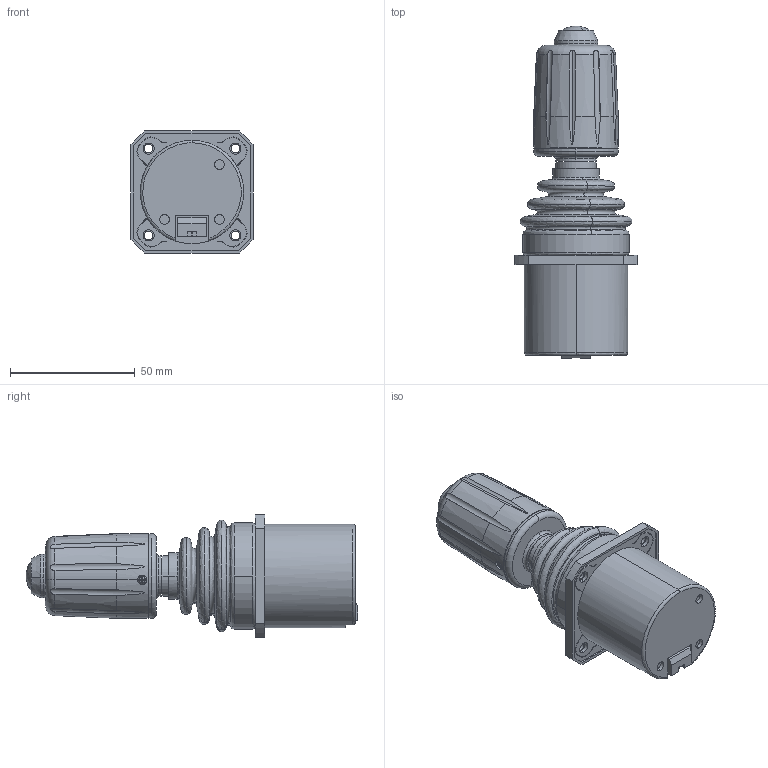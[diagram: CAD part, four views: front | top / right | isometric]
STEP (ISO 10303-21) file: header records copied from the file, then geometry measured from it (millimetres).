
FILE_DESCRIPTION(('FreeCAD Model'),'2;1');
FILE_NAME('O:/12-Produkte/12-10 PM/12-10-10 JOY/01_Produktinfo/TRY22/Lieferant/TRY22_351231.step', '2020-03-13T09:08:59',('Author'),(''), 'Open CASCADE STEP processor 7.3','FreeCAD','Unknown');
FILE_SCHEMA(('AUTOMOTIVE_DESIGN { 1 0 10303 214 1 1 1 1 }'));
Length unit declared in the file: millimetre
Products named in the file (1): TRY22_3_5_1_2_3_1
Bounding box: 49 x 133.25 x 49 mm (x, y, z)
Volume: 132550.2 mm3; surface area: 23095.8 mm2
Topology: 1 solids, 1 shells, 398 faces, 1070 edges, 706 vertices
Faces by surface type: plane 180, cylinder 137, cone 39, bspline 26, torus 10, sphere 6
Entity records: 39034 total; most frequent: CARTESIAN_POINT 15234, DIRECTION 3914, ORIENTED_EDGE 2140, PCURVE 2140, DEFINITIONAL_REPRESENTATION 2140, LINE 2095, VECTOR 2095, EDGE_CURVE 1070
